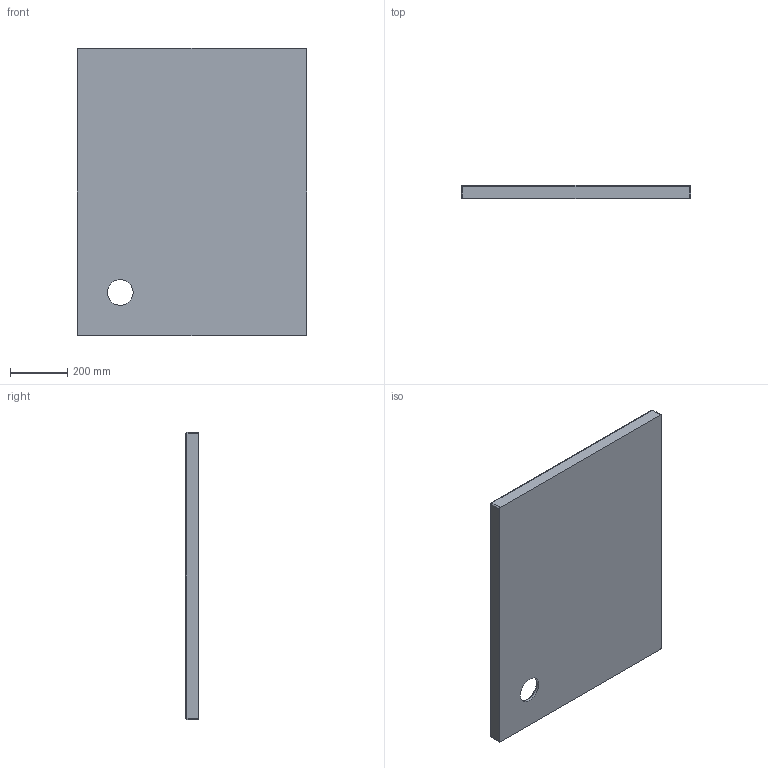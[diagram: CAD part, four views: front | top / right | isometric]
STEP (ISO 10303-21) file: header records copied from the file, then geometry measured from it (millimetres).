
FILE_DESCRIPTION(/* description */ (''),/* implementation_level */ '2;1');
FILE_NAME(/* name */ 'c:\worker\convert-fusion-r09\tmp\job-1\49\output\files\4ef3af9f-4842-494b-8cff-bed69f77a3d6\c5a8b57a-8f18-4ffa-81c0-c2fd4ed674ed.stp',/* time_stamp */ '2020-01-03T08:58:17+00:00',/* author */ (''),/* organization */ (''),/* preprocessor_version */ 'ST-DEVELOPER v18',/* originating_system */ 'Autodesk Translation Framework v8.12.0.6',/* authorisation */ '');
FILE_SCHEMA (('AUTOMOTIVE_DESIGN { 1 0 10303 214 3 1 1 }'));
Length unit declared in the file: millimetre
Products named in the file (1): Merton 80/100/P
Bounding box: 800 x 45 x 1000 mm (x, y, z)
Volume: 22806389.6 mm3; surface area: 1797359.6 mm2
Topology: 1 solids, 1 shells, 47 faces, 98 edges, 54 vertices
Faces by surface type: cylinder 21, plane 11, sphere 8, torus 4, bspline 3
Full cylindrical faces by diameter (mm): 90 x1
Entity records: 1796 total; most frequent: CARTESIAN_POINT 746, DIRECTION 230, ORIENTED_EDGE 198, EDGE_CURVE 99, AXIS2_PLACEMENT_3D 92, VERTEX_POINT 55, EDGE_LOOP 50, FACE_OUTER_BOUND 47
